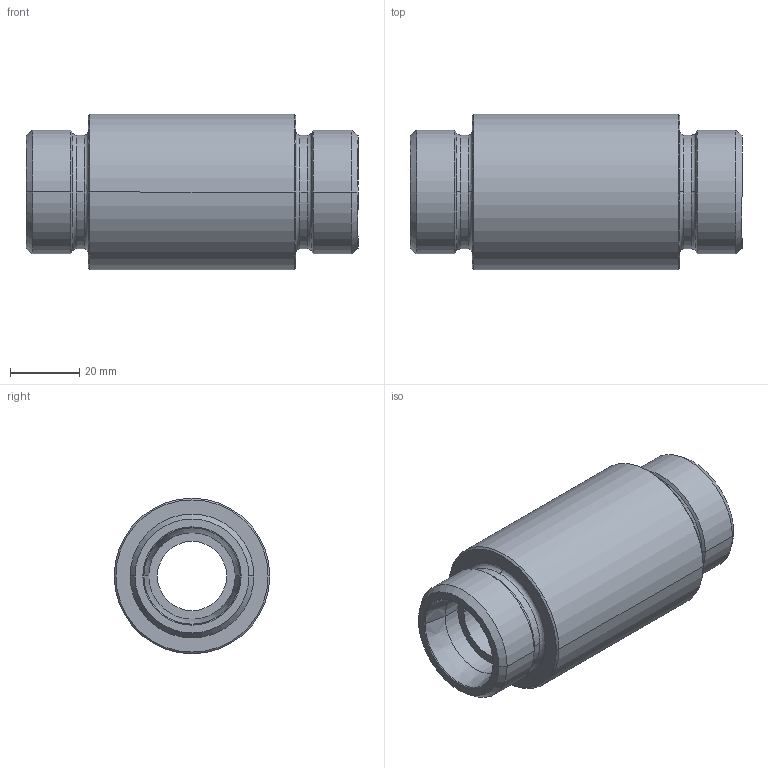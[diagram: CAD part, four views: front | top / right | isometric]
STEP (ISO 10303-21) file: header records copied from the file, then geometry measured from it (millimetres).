
FILE_DESCRIPTION((''),'2;1');
FILE_NAME('105621.stp','2007-10-31T14:07:06',(''),(''),'AutoCAD STEP 2000i','AutoCAD 2000i',', , ');
FILE_SCHEMA(('CONFIG_CONTROL_DESIGN'));
Length unit declared in the file: millimetre
Products named in the file (2): 105621.0; BARRA TONDA#0
Assembly tree (1 placements, depth 2):
  105621.0
    BARRA TONDA#0
Bounding box: 96 x 45 x 45 mm (x, y, z)
Volume: 94706.4 mm3; surface area: 21301.9 mm2
Topology: 1 solids, 1 shells, 50 faces, 120 edges, 76 vertices
Faces by surface type: cone 16, cylinder 16, bspline 8, plane 6, torus 4
Entity records: 1929 total; most frequent: CARTESIAN_POINT 600, DIRECTION 296, ORIENTED_EDGE 240, AXIS2_PLACEMENT_3D 132, EDGE_CURVE 120, CIRCLE 88, VERTEX_POINT 76, EDGE_LOOP 56
